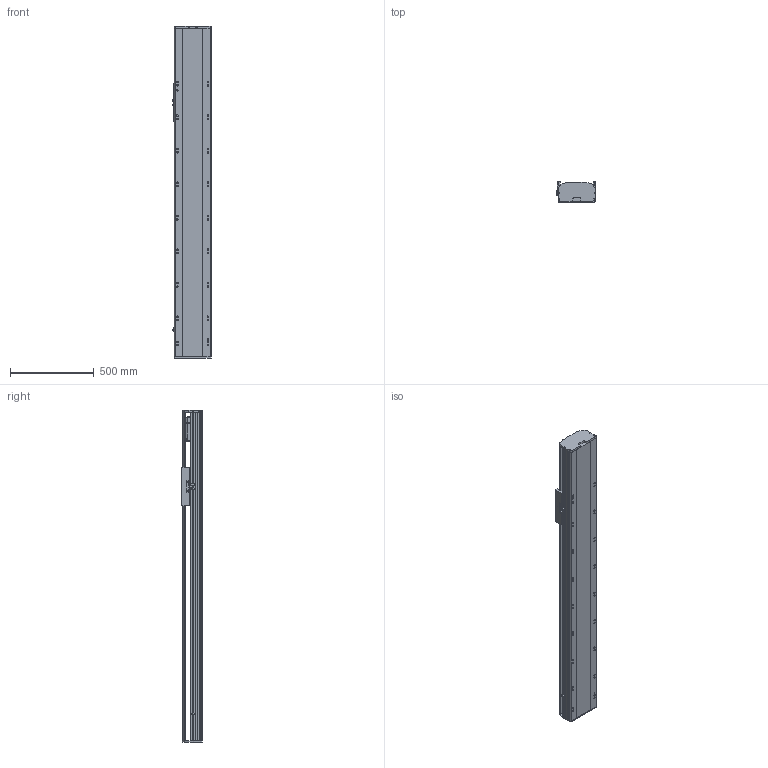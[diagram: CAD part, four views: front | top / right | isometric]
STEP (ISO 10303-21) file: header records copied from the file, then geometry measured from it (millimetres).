
FILE_DESCRIPTION (( 'STEP AP214' ), '1' );
FILE_NAME ('RTH22-XX-1350-B-M75B-C4.STEP', '2025-10-24T10:14:42', ( 'Microsoft' ), ( 'Microsoft' ), 'SwSTEP 2.0', 'SolidWorks 2018', '' );
FILE_SCHEMA (( 'AUTOMOTIVE_DESIGN' ));
Length unit declared in the file: millimetre
Products named in the file (9): N_RTH22-B-011B菁釱^RTH22-XX-XX-B-M75B-C4; N_RTH22-E-004-SFS25賑釱^RTH22-XX-XX-B-M75B-C4; RTH22-XX-1350-B-M75B-C4; N_RTH22-B-007B奻裔^RTH22-XX-XX-B-M75B-C4; N_RTH22-GY-013外置感应片^RTH22-XX-XX-B-M75B-C4; N_RTH22-GY-001耜裔^RTH22-XX-XX-B-M75B-C4; N_RTH22-B008萇儂啣^RTH22-XX-XX-B-M75B-C4; N_OMRON EE-SX672 传感器^RTH22-XX-XX-B-M75B-C4; N_750W萇儂^RTH22-XX-XX-B-M75B-C4
Assembly tree (10 placements, depth 2):
  RTH22-XX-1350-B-M75B-C4
    N_RTH22-B-011B菁釱^RTH22-XX-XX-B-M75B-C4
    N_RTH22-GY-001耜裔^RTH22-XX-XX-B-M75B-C4
    N_750W萇儂^RTH22-XX-XX-B-M75B-C4
    N_RTH22-B008萇儂啣^RTH22-XX-XX-B-M75B-C4
    N_RTH22-B-007B奻裔^RTH22-XX-XX-B-M75B-C4
    N_OMRON EE-SX672 传感器^RTH22-XX-XX-B-M75B-C4  x3
    N_RTH22-GY-013外置感应片^RTH22-XX-XX-B-M75B-C4
    N_RTH22-E-004-SFS25賑釱^RTH22-XX-XX-B-M75B-C4
Bounding box: 238.5 x 122 x 1980 mm (x, y, z)
Volume: 26041827.6 mm3; surface area: 2663693.1 mm2
Topology: 10 solids, 10 shells, 1569 faces, 4300 edges, 2773 vertices
Faces by surface type: plane 758, cylinder 466, bspline 279, cone 66
Entity records: 39407 total; most frequent: CARTESIAN_POINT 12141, ORIENTED_EDGE 5560, DIRECTION 5258, EDGE_CURVE 2780, VERTEX_POINT 1809, AXIS2_PLACEMENT_3D 1786, LINE 1686, VECTOR 1686
